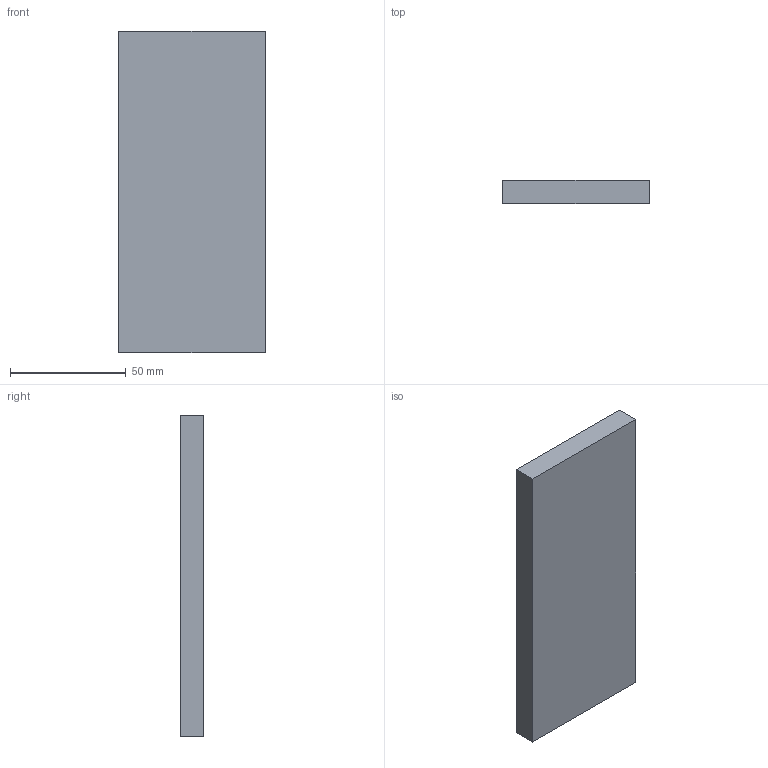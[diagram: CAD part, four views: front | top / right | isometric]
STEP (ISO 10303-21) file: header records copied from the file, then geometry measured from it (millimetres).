
FILE_DESCRIPTION(('Open CASCADE Model'),'2;1');
FILE_NAME('Open CASCADE Shape Model','2026-09-19T12:55:16',('Author'),( 'Open CASCADE'),'Open CASCADE STEP processor 7.9','Open CASCADE 7.9' ,'Unknown');
FILE_SCHEMA(('AUTOMOTIVE_DESIGN { 1 0 10303 214 1 1 1 1 }'));
Length unit declared in the file: millimetre
Products named in the file (1): Open CASCADE STEP translator 7.9 178
Bounding box: 62.95 x 10 x 138.8 mm (x, y, z)
Volume: 87374.6 mm3; surface area: 21509.9 mm2
Topology: 1 solids, 1 shells, 6 faces, 12 edges, 8 vertices
Faces by surface type: plane 6
Entity records: 322 total; most frequent: CARTESIAN_POINT 51, DIRECTION 50, LINE 36, VECTOR 36, ORIENTED_EDGE 24, PCURVE 24, DEFINITIONAL_REPRESENTATION 24, EDGE_CURVE 12
